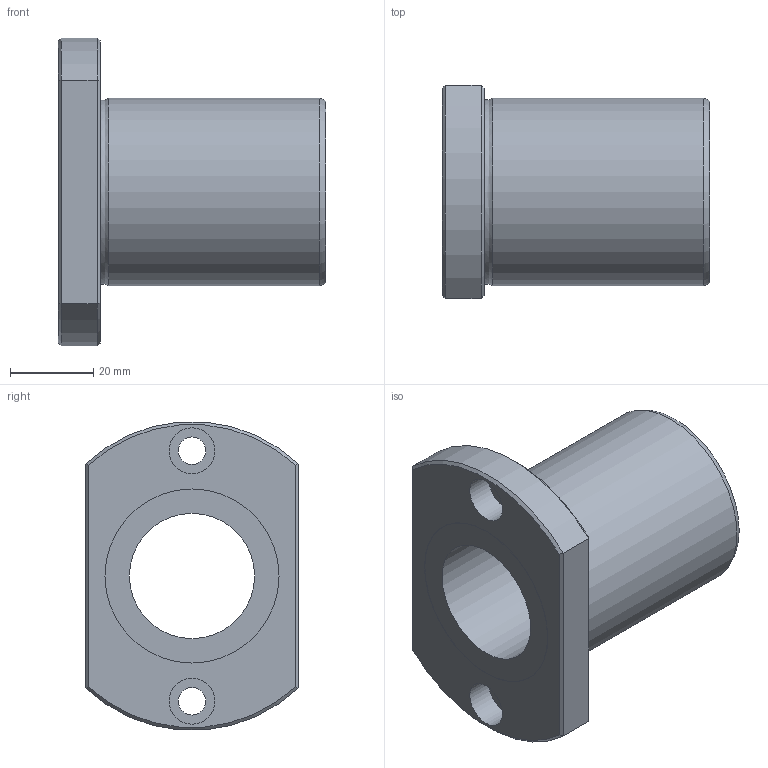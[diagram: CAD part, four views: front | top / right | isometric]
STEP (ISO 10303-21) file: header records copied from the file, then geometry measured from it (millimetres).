
FILE_DESCRIPTION((''),'2;1');
FILE_NAME('D:\製品 (図面)\カタログ用3D\リニアベアリング関連\STEP形式\LFT\LFT30.stp','2010-06-04T09:18:36',('Tsuchiya'),(''),'Autodesk Inventor 10','Autodesk Inventor 10','');
FILE_SCHEMA(('AUTOMOTIVE_DESIGN { 1 0 10303 214 1 1 1 1 }'));
Length unit declared in the file: millimetre
Products named in the file (1): LFT30
Bounding box: 64 x 51 x 73.74 mm (x, y, z)
Volume: 73247.9 mm3; surface area: 21617.4 mm2
Topology: 1 solids, 1 shells, 29 faces, 56 edges, 34 vertices
Faces by surface type: plane 13, cylinder 10, cone 4, torus 1, bspline 1
Full cylindrical faces by diameter (mm): 6.6 x2, 11 x2, 30 x1, 41.7 x2, 45 x1
Entity records: 787 total; most frequent: CARTESIAN_POINT 196, DIRECTION 122, ORIENTED_EDGE 92, AXIS2_PLACEMENT_3D 55, EDGE_LOOP 50, EDGE_CURVE 46, VERTEX_POINT 34, FACE_OUTER_BOUND 29
